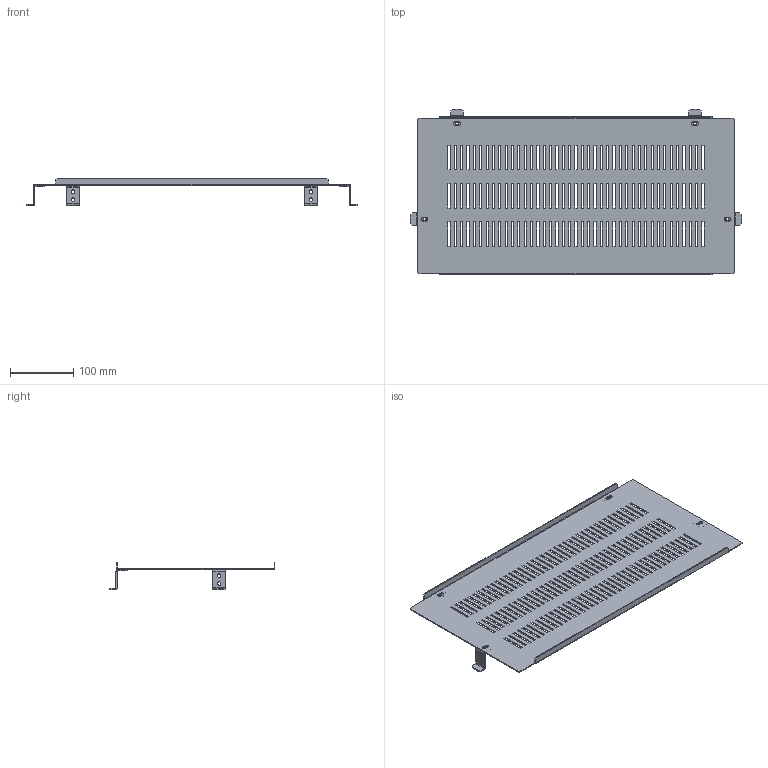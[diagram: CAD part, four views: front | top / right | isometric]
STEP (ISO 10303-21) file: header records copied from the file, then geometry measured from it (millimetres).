
FILE_DESCRIPTION(('CAx-IF Rec.Pracs.---Model Styling and Organization---1.2---2011-12-15','CAx-IF Rec.Pracs.---Geometric and Assembly Validation Properties---4.1---2014-06-16','CAx-IF Rec.Pracs.---PMI Polyline Presentation---2.0---2013-05-24'),'2;1');
FILE_NAME('R5SBBF630.stp','2021-05-06T03:00:19+03:00',(''),(''),'STEP Interface 4.4 by CT CoreTechnologie','3D_Evolution4.4 by CT CoreTechnologie','');
FILE_SCHEMA(('AUTOMOTIVE_DESIGN { 1 0 10303 214 1 1 1 1 }'));
Length unit declared in the file: millimetre
Products named in the file (3): R5SBBF630; RB.0519.00.00.0_-02; RB.0521.00.00.0_-00
Assembly tree (5 placements, depth 2):
  R5SBBF630
    RB.0519.00.00.0_-02
    RB.0521.00.00.0_-00  x4
Bounding box: 522 x 261.5 x 43 mm (x, y, z)
Surface area: 258695.9 mm2 (no closed solid volume)
Topology: 0 solids, 5 shells, 647 faces, 1885 edges, 1248 vertices
Faces by surface type: plane 591, cylinder 56
Entity records: 19313 total; most frequent: CARTESIAN_POINT 3372, ORIENTED_EDGE 3362, DIRECTION 2883, EDGE_CURVE 1681, VECTOR 1629, LINE 1629, VERTEX_POINT 1116, EDGE_LOOP 829
